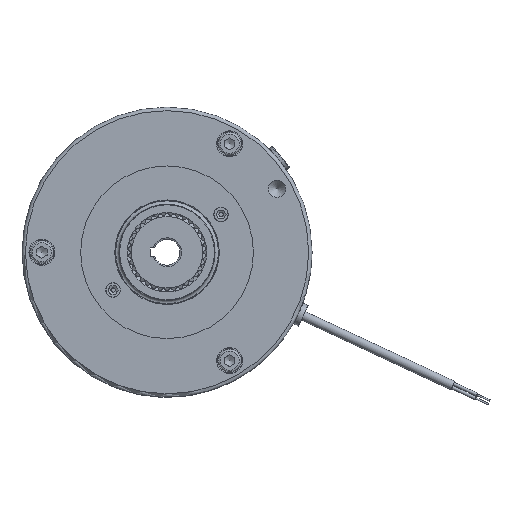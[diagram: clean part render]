
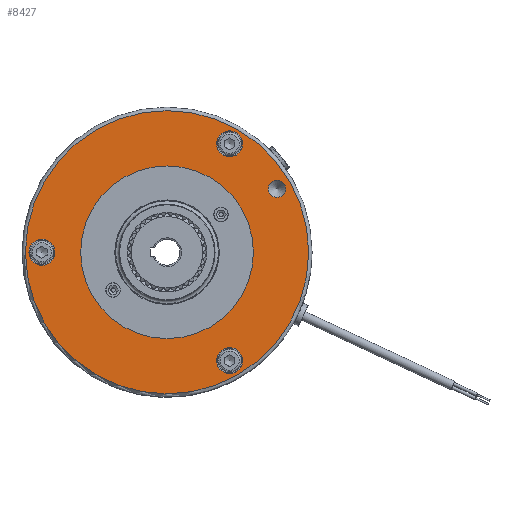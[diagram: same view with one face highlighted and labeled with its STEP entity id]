
A CAD part, left-side view. The second image highlights one B-rep face of the part: STEP entity #8427.
In plain terms, the highlighted planar face has unit normal (-1, 0, 0).
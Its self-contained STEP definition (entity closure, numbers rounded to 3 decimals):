
#689=FACE_BOUND('',#1941,.T.);
#690=FACE_BOUND('',#1942,.T.);
#691=FACE_BOUND('',#1943,.T.);
#692=FACE_BOUND('',#1944,.T.);
#693=FACE_BOUND('',#1945,.T.);
#964=CIRCLE('',#9126,5.);
#965=CIRCLE('',#9127,5.);
#989=CIRCLE('',#9162,82.);
#990=CIRCLE('',#9163,82.);
#991=CIRCLE('',#9166,50.);
#992=CIRCLE('',#9167,50.);
#993=CIRCLE('',#9168,7.5);
#994=CIRCLE('',#9169,7.5);
#995=CIRCLE('',#9170,7.5);
#996=CIRCLE('',#9171,7.5);
#997=CIRCLE('',#9172,7.5);
#998=CIRCLE('',#9173,7.5);
#1476=FACE_OUTER_BOUND('',#1940,.T.);
#1940=EDGE_LOOP('',(#6518,#6519));
#1941=EDGE_LOOP('',(#6520,#6521));
#1942=EDGE_LOOP('',(#6522,#6523));
#1943=EDGE_LOOP('',(#6524,#6525));
#1944=EDGE_LOOP('',(#6526,#6527));
#1945=EDGE_LOOP('',(#6528,#6529));
#3490=VERTEX_POINT('',#13955);
#3491=VERTEX_POINT('',#13956);
#3508=VERTEX_POINT('',#14013);
#3509=VERTEX_POINT('',#14015);
#3510=VERTEX_POINT('',#14020);
#3511=VERTEX_POINT('',#14021);
#3512=VERTEX_POINT('',#14024);
#3513=VERTEX_POINT('',#14025);
#3514=VERTEX_POINT('',#14028);
#3515=VERTEX_POINT('',#14029);
#3516=VERTEX_POINT('',#14032);
#3517=VERTEX_POINT('',#14033);
#4556=EDGE_CURVE('',#3490,#3491,#964,.T.);
#4557=EDGE_CURVE('',#3491,#3490,#965,.T.);
#4586=EDGE_CURVE('',#3508,#3509,#989,.T.);
#4587=EDGE_CURVE('',#3509,#3508,#990,.T.);
#4588=EDGE_CURVE('',#3510,#3511,#991,.T.);
#4589=EDGE_CURVE('',#3511,#3510,#992,.T.);
#4590=EDGE_CURVE('',#3512,#3513,#993,.T.);
#4591=EDGE_CURVE('',#3513,#3512,#994,.T.);
#4592=EDGE_CURVE('',#3514,#3515,#995,.T.);
#4593=EDGE_CURVE('',#3515,#3514,#996,.T.);
#4594=EDGE_CURVE('',#3516,#3517,#997,.T.);
#4595=EDGE_CURVE('',#3517,#3516,#998,.T.);
#6518=ORIENTED_EDGE('',*,*,#4587,.F.);
#6519=ORIENTED_EDGE('',*,*,#4586,.F.);
#6520=ORIENTED_EDGE('',*,*,#4556,.T.);
#6521=ORIENTED_EDGE('',*,*,#4557,.T.);
#6522=ORIENTED_EDGE('',*,*,#4588,.T.);
#6523=ORIENTED_EDGE('',*,*,#4589,.T.);
#6524=ORIENTED_EDGE('',*,*,#4590,.T.);
#6525=ORIENTED_EDGE('',*,*,#4591,.T.);
#6526=ORIENTED_EDGE('',*,*,#4592,.T.);
#6527=ORIENTED_EDGE('',*,*,#4593,.T.);
#6528=ORIENTED_EDGE('',*,*,#4594,.T.);
#6529=ORIENTED_EDGE('',*,*,#4595,.T.);
#7709=PLANE('',#9165);
#8427=ADVANCED_FACE('',(#1476,#689,#690,#691,#692,#693),#7709,.T.);
#9126=AXIS2_PLACEMENT_3D('',#13957,#10798,#10799);
#9127=AXIS2_PLACEMENT_3D('',#13958,#10800,#10801);
#9162=AXIS2_PLACEMENT_3D('',#14016,#10875,#10876);
#9163=AXIS2_PLACEMENT_3D('',#14017,#10877,#10878);
#9165=AXIS2_PLACEMENT_3D('',#14019,#10881,#10882);
#9166=AXIS2_PLACEMENT_3D('',#14022,#10883,#10884);
#9167=AXIS2_PLACEMENT_3D('',#14023,#10885,#10886);
#9168=AXIS2_PLACEMENT_3D('',#14026,#10887,#10888);
#9169=AXIS2_PLACEMENT_3D('',#14027,#10889,#10890);
#9170=AXIS2_PLACEMENT_3D('',#14030,#10891,#10892);
#9171=AXIS2_PLACEMENT_3D('',#14031,#10893,#10894);
#9172=AXIS2_PLACEMENT_3D('',#14034,#10895,#10896);
#9173=AXIS2_PLACEMENT_3D('',#14035,#10897,#10898);
#10798=DIRECTION('center_axis',(1.,0.,0.));
#10799=DIRECTION('ref_axis',(0.,0.,1.));
#10800=DIRECTION('center_axis',(1.,0.,0.));
#10801=DIRECTION('ref_axis',(0.,0.,1.));
#10875=DIRECTION('center_axis',(1.,0.,0.));
#10876=DIRECTION('ref_axis',(0.,-1.,0.));
#10877=DIRECTION('center_axis',(1.,0.,0.));
#10878=DIRECTION('ref_axis',(0.,-1.,0.));
#10881=DIRECTION('center_axis',(-1.,0.,0.));
#10882=DIRECTION('ref_axis',(0.,0.,1.));
#10883=DIRECTION('center_axis',(1.,0.,0.));
#10884=DIRECTION('ref_axis',(0.,1.,0.));
#10885=DIRECTION('center_axis',(1.,0.,0.));
#10886=DIRECTION('ref_axis',(0.,1.,0.));
#10887=DIRECTION('center_axis',(1.,0.,0.));
#10888=DIRECTION('ref_axis',(0.,0.,1.));
#10889=DIRECTION('center_axis',(1.,0.,0.));
#10890=DIRECTION('ref_axis',(0.,0.,1.));
#10891=DIRECTION('center_axis',(1.,0.,0.));
#10892=DIRECTION('ref_axis',(0.,0.,1.));
#10893=DIRECTION('center_axis',(1.,0.,0.));
#10894=DIRECTION('ref_axis',(0.,0.,1.));
#10895=DIRECTION('center_axis',(1.,0.,0.));
#10896=DIRECTION('ref_axis',(0.,0.,1.));
#10897=DIRECTION('center_axis',(1.,0.,0.));
#10898=DIRECTION('ref_axis',(0.,0.,1.));
#13955=CARTESIAN_POINT('',(-66.8,-63.653,41.75));
#13956=CARTESIAN_POINT('',(-66.8,-63.653,31.75));
#13957=CARTESIAN_POINT('Origin',(-66.8,-63.653,36.75));
#13958=CARTESIAN_POINT('Origin',(-66.8,-63.653,36.75));
#14013=CARTESIAN_POINT('',(-66.8,0.,82.));
#14015=CARTESIAN_POINT('',(-66.8,82.,0.));
#14016=CARTESIAN_POINT('Origin',(-66.8,0.,0.));
#14017=CARTESIAN_POINT('Origin',(-66.8,0.,0.));
#14019=CARTESIAN_POINT('Origin',(-66.8,67.,0.));
#14020=CARTESIAN_POINT('',(-66.8,50.,0.));
#14021=CARTESIAN_POINT('',(-66.8,-50.,0.));
#14022=CARTESIAN_POINT('Origin',(-66.8,0.,0.));
#14023=CARTESIAN_POINT('Origin',(-66.8,0.,0.));
#14024=CARTESIAN_POINT('',(-66.8,72.5,7.5));
#14025=CARTESIAN_POINT('',(-66.8,72.5,-7.5));
#14026=CARTESIAN_POINT('Origin',(-66.8,72.5,0.));
#14027=CARTESIAN_POINT('Origin',(-66.8,72.5,0.));
#14028=CARTESIAN_POINT('',(-66.8,-36.25,-55.287));
#14029=CARTESIAN_POINT('',(-66.8,-36.25,-70.287));
#14030=CARTESIAN_POINT('Origin',(-66.8,-36.25,-62.787));
#14031=CARTESIAN_POINT('Origin',(-66.8,-36.25,-62.787));
#14032=CARTESIAN_POINT('',(-66.8,-36.25,70.287));
#14033=CARTESIAN_POINT('',(-66.8,-36.25,55.287));
#14034=CARTESIAN_POINT('Origin',(-66.8,-36.25,62.787));
#14035=CARTESIAN_POINT('Origin',(-66.8,-36.25,62.787));
